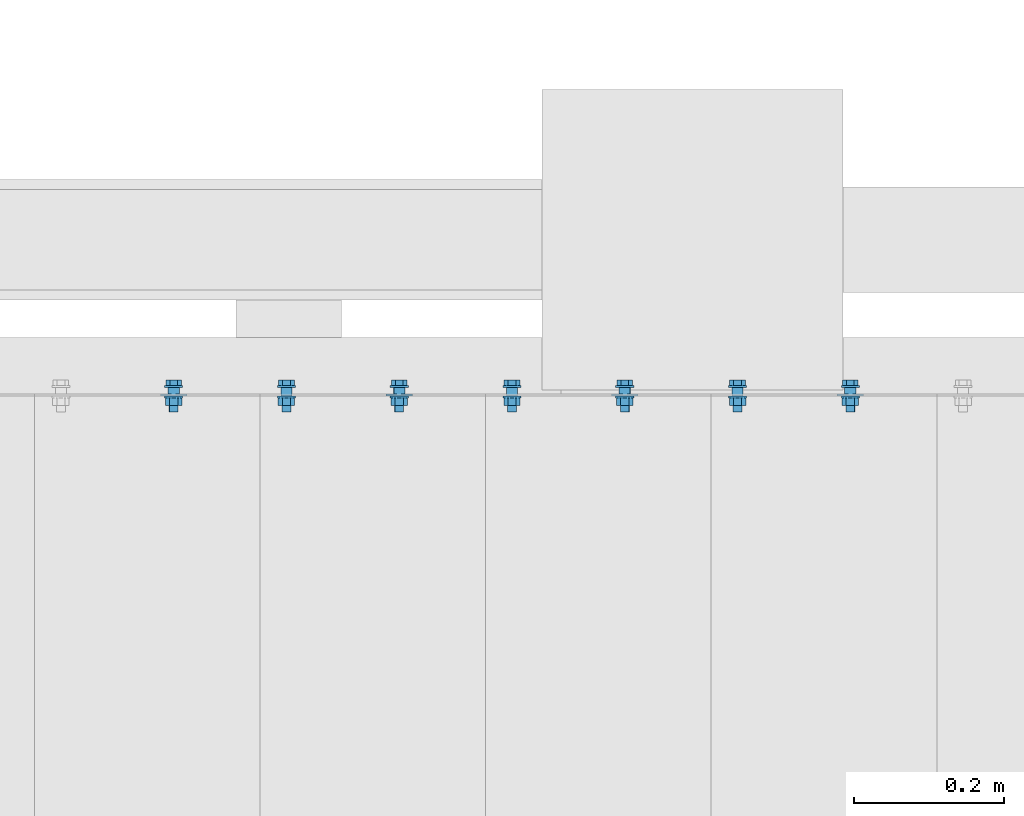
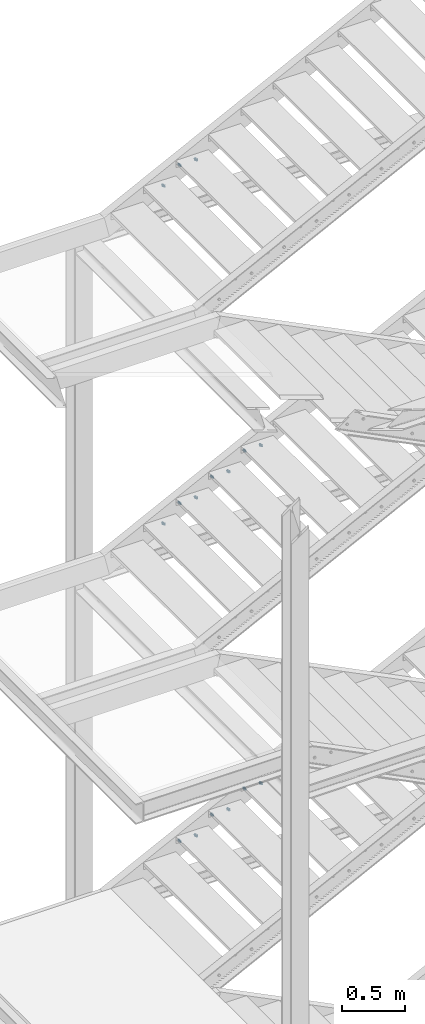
# One storey, part 111 of 132: 16 mechanical fasteners, 9 elements without a shape of their own.
"""IFC2X3 building model written with IfcOpenShell, lengths in millimetres."""

from ifc_helpers import new_model, si_unit, frame, frame_2d, origin_with_axes, origin_2d_with_axis, place, context, subcontext, project, spatial, polyline, circle_curve, parameter, trimmed, segment, composite_curve, circle, outline, extrude, source, transform, mapped, material, type_object, element, aggregate, save


model = new_model("IFC2X3")

# Units and contexts
model_context = context("Model", 3, precision=1e-05, world=origin_with_axes())
body_context = subcontext(model_context, "Body", "Model", "MODEL_VIEW")
ifc_project = project(units=[si_unit("LENGTHUNIT", "METRE", prefix="MILLI"), si_unit("AREAUNIT", "SQUARE_METRE"), si_unit("VOLUMEUNIT", "CUBIC_METRE"), si_unit("MASSUNIT", "GRAM", prefix="KILO"), si_unit("TIMEUNIT", "SECOND"), si_unit("PLANEANGLEUNIT", "RADIAN"), si_unit("SOLIDANGLEUNIT", "STERADIAN"), si_unit("THERMODYNAMICTEMPERATUREUNIT", "DEGREE_CELSIUS"), si_unit("LUMINOUSINTENSITYUNIT", "LUMEN")], contexts=[model_context])

# Site, building, storey
site_placement = place(None, origin_with_axes())
site = spatial("IfcSite", under=ifc_project, at=site_placement, Name="Budowa", CompositionType="ELEMENT")
building_placement = place(site_placement, origin_with_axes())
building = spatial("IfcBuilding", under=site, at=building_placement, Name="Undefined", CompositionType="ELEMENT")
storey_placement = place(building_placement, origin_with_axes())
storey = spatial("IfcBuildingStorey", under=building, at=storey_placement, Name="Undefined", CompositionType="ELEMENT", Elevation=0.0)

# Assembly, mechanical fastener
assembly_1_placement = place(storey_placement, origin_with_axes())
assembly_1 = element("IfcElementAssembly", 1, at=assembly_1_placement, inside=storey, Name="Steel Assembly", AssemblyPlace="NOTDEFINED", PredefinedType="RIGID_FRAME")
ifc_material = material(Name="Undefined")
discrete_accessory_type = type_object("IfcDiscreteAccessoryType", Name="Bolt assembly")
shared_shape_1 = source(origin_with_axes(), body_context, "Body", "SweptSolid", [
    extrude(circle(Radius=7.5, at=origin_2d_with_axis()), frame((0.0, -8.40000000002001, 0.0), z_axis=(0.0, 1.0, 0.0), x_axis=(1.0, 0.0, 0.0)), (0.0, 0.0, 1.0), 8.5),
    extrude(circle(Radius=7.5, at=origin_2d_with_axis()), frame((0.0, -0.1, 0.0), z_axis=(0.0, 1.0, 0.0), x_axis=(1.0, 0.0, 0.0)), (0.0, 0.0, 1.0), 3.1),
    extrude(outline(polyline([(10.39230484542, 0.0), (5.19615242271, 9.00000000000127), (-5.19615242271, 9.00000000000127), (-10.39230484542, 0.0), (-5.19615242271, -9.00000000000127), (5.19615242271, -9.00000000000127), (10.39230484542, 0.0)])), frame((0.0, -18.50000000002, 0.0), z_axis=(0.0, 1.0, 0.0), x_axis=(1.0, 0.0, 0.0)), (0.0, 0.0, 1.0), 7.5),
    extrude(circle(Radius=6.0, at=origin_2d_with_axis()), frame((0.0, -11.00000000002, 0.0), z_axis=(0.0, 1.0, 0.0), x_axis=(1.0, 0.0, 0.0)), (0.0, 0.0, 1.0), 35.0),
    extrude(circle(Radius=12.0, at=origin_2d_with_axis()), frame((0.0, -11.00000000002, 0.0), z_axis=(0.0, 1.0, 0.0), x_axis=(1.0, 0.0, 0.0)), (0.0, 0.0, 1.0), 2.5),
    extrude(circle(Radius=12.0, at=origin_2d_with_axis()), frame((0.0, 3.0, 0.0), z_axis=(0.0, 1.0, 0.0), x_axis=(1.0, 0.0, 0.0)), (0.0, 0.0, 1.0), 2.5),
    extrude(outline(polyline([(10.96965511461, 0.0), (5.484827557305, 9.50000000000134), (-5.484827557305, 9.50000000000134), (-10.96965511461, 0.0), (-5.484827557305, -9.50000000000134), (5.484827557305, -9.50000000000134), (10.96965511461, 0.0)])), frame((0.0, 5.5, 0.0), z_axis=(0.0, 1.0, 0.0), x_axis=(1.0, 0.0, 0.0)), (0.0, 0.0, 1.0), 10.0),
])
mechanical_fastener_1_placement = place(assembly_1_placement, frame((-3520.00000008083, 10925.0000000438, 12649.9999999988), z_axis=(0.0, 0.0, -1.0), x_axis=(1.0, 0.0, 0.0)))
mechanical_fastener_1 = element("IfcMechanicalFastener", 2, at=mechanical_fastener_1_placement, type_object=discrete_accessory_type, material=ifc_material, Name="Bolt assembly", NominalDiameter=12.0, NominalLength=35.0, context=body_context, shape_type="MappedRepresentation", body=[
    mapped(shared_shape_1, transform((35.0, 0.0, 25.0))),
])

assembly_2_placement = place(storey_placement, origin_with_axes())
assembly_2 = element("IfcElementAssembly", 3, at=assembly_2_placement, inside=storey, Name="Steel Assembly", AssemblyPlace="NOTDEFINED", PredefinedType="RIGID_FRAME")
mechanical_fastener_2_placement = place(assembly_2_placement, frame((-2920.00000008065, 10925.0000000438, 9649.99999999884), z_axis=(0.0, 0.0, -1.0), x_axis=(1.0, 0.0, 0.0)))
mechanical_fastener_2 = element("IfcMechanicalFastener", 4, at=mechanical_fastener_2_placement, type_object=discrete_accessory_type, material=ifc_material, Name="Bolt assembly", NominalDiameter=12.0, NominalLength=35.0, context=body_context, shape_type="MappedRepresentation", body=[
    mapped(shared_shape_1, transform((35.0, 0.0, 25.0))),
])

assembly_3_placement = place(storey_placement, origin_with_axes())
assembly_3 = element("IfcElementAssembly", 5, at=assembly_3_placement, inside=storey, Name="Steel Assembly", AssemblyPlace="NOTDEFINED", PredefinedType="RIGID_FRAME")
mechanical_fastener_3_placement = place(assembly_3_placement, frame((-3220.00000008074, 10925.0000000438, 9499.99999999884), z_axis=(0.0, 0.0, -1.0), x_axis=(1.0, 0.0, 0.0)))
mechanical_fastener_3 = element("IfcMechanicalFastener", 6, at=mechanical_fastener_3_placement, type_object=discrete_accessory_type, material=ifc_material, Name="Bolt assembly", NominalDiameter=12.0, NominalLength=35.0, context=body_context, shape_type="MappedRepresentation", body=[
    mapped(shared_shape_1, transform((35.0, 0.0, 25.0))),
])

assembly_4_placement = place(storey_placement, origin_with_axes())
assembly_4 = element("IfcElementAssembly", 7, at=assembly_4_placement, inside=storey, Name="Steel Assembly", AssemblyPlace="NOTDEFINED", PredefinedType="RIGID_FRAME")
mechanical_fastener_4_placement = place(assembly_4_placement, frame((-3520.00000008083, 10925.0000000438, 9349.99999999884), z_axis=(0.0, 0.0, -1.0), x_axis=(1.0, 0.0, 0.0)))
mechanical_fastener_4 = element("IfcMechanicalFastener", 8, at=mechanical_fastener_4_placement, type_object=discrete_accessory_type, material=ifc_material, Name="Bolt assembly", NominalDiameter=12.0, NominalLength=35.0, context=body_context, shape_type="MappedRepresentation", body=[
    mapped(shared_shape_1, transform((35.0, 0.0, 25.0))),
])

assembly_5_placement = place(storey_placement, origin_with_axes())
assembly_5 = element("IfcElementAssembly", 9, at=assembly_5_placement, inside=storey, Name="Steel Assembly", AssemblyPlace="NOTDEFINED", PredefinedType="RIGID_FRAME")
mechanical_fastener_5_placement = place(assembly_5_placement, frame((-2920.00000008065, 10925.0000000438, 6349.99999999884), z_axis=(0.0, 0.0, -1.0), x_axis=(1.0, 0.0, 0.0)))
mechanical_fastener_5 = element("IfcMechanicalFastener", 10, at=mechanical_fastener_5_placement, type_object=discrete_accessory_type, material=ifc_material, Name="Bolt assembly", NominalDiameter=12.0, NominalLength=35.0, context=body_context, shape_type="MappedRepresentation", body=[
    mapped(shared_shape_1, transform((35.0, 0.0, 25.0))),
])

assembly_6_placement = place(storey_placement, origin_with_axes())
assembly_6 = element("IfcElementAssembly", 11, at=assembly_6_placement, inside=storey, Name="Steel Assembly", AssemblyPlace="NOTDEFINED", PredefinedType="RIGID_FRAME")
mechanical_fastener_6_placement = place(assembly_6_placement, frame((-3220.00000008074, 10925.0000000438, 6199.99999999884), z_axis=(0.0, 0.0, -1.0), x_axis=(1.0, 0.0, 0.0)))
mechanical_fastener_6 = element("IfcMechanicalFastener", 12, at=mechanical_fastener_6_placement, type_object=discrete_accessory_type, material=ifc_material, Name="Bolt assembly", NominalDiameter=12.0, NominalLength=35.0, context=body_context, shape_type="MappedRepresentation", body=[
    mapped(shared_shape_1, transform((35.0, 0.0, 25.0))),
])

assembly_7_placement = place(storey_placement, origin_with_axes())
assembly_7 = element("IfcElementAssembly", 13, at=assembly_7_placement, inside=storey, Name="Steel Assembly", AssemblyPlace="NOTDEFINED", PredefinedType="RIGID_FRAME")
mechanical_fastener_7_placement = place(assembly_7_placement, frame((-3520.00000008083, 10925.0000000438, 6049.99999999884), z_axis=(0.0, 0.0, -1.0), x_axis=(1.0, 0.0, 0.0)))
mechanical_fastener_7 = element("IfcMechanicalFastener", 14, at=mechanical_fastener_7_placement, type_object=discrete_accessory_type, material=ifc_material, Name="Bolt assembly", NominalDiameter=12.0, NominalLength=35.0, context=body_context, shape_type="MappedRepresentation", body=[
    mapped(shared_shape_1, transform((35.0, 0.0, 25.0))),
])

# Mechanical fastener
shared_shape_2 = source(origin_with_axes(), body_context, "Body", "SweptSolid", [
    extrude(circle(Radius=7.5, at=origin_2d_with_axis()), frame((0.0, -8.40000000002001, 0.0), z_axis=(0.0, 1.0, 0.0), x_axis=(1.0, 0.0, 0.0)), (0.0, 0.0, 1.0), 8.5),
    extrude(outline(composite_curve([segment(polyline([(-10.0, 7.5), (10.0, 7.5)]), True, "CONTINUOUS"), segment(trimmed(circle_curve(frame_2d((10.0, 0.0), x_axis=(0.0, 1.0)), 7.5), [parameter(0.0)], [parameter(3.14159265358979)], False, "PARAMETER"), True, "CONTINUOUS"), segment(polyline([(10.0, -7.5), (-10.0, -7.5)]), True, "CONTINUOUS"), segment(trimmed(circle_curve(frame_2d((-10.0, 0.0), x_axis=(0.0, -1.0)), 7.5), [parameter(0.0)], [parameter(3.14159265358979)], False, "PARAMETER"), True, "DISCONTINUOUS")], self_intersect=False)), frame((0.0, -0.1, 0.0), z_axis=(0.0, 1.0, 0.0), x_axis=(1.0, 0.0, 0.0)), (0.0, 0.0, 1.0), 3.1),
    extrude(outline(polyline([(10.39230484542, 0.0), (5.19615242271, 9.00000000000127), (-5.19615242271, 9.00000000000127), (-10.39230484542, 0.0), (-5.19615242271, -9.00000000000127), (5.19615242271, -9.00000000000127), (10.39230484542, 0.0)])), frame((0.0, -18.50000000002, 0.0), z_axis=(0.0, 1.0, 0.0), x_axis=(1.0, 0.0, 0.0)), (0.0, 0.0, 1.0), 7.5),
    extrude(circle(Radius=6.0, at=origin_2d_with_axis()), frame((0.0, -11.00000000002, 0.0), z_axis=(0.0, 1.0, 0.0), x_axis=(1.0, 0.0, 0.0)), (0.0, 0.0, 1.0), 35.0),
    extrude(circle(Radius=12.0, at=origin_2d_with_axis()), frame((0.0, -11.00000000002, 0.0), z_axis=(0.0, 1.0, 0.0), x_axis=(1.0, 0.0, 0.0)), (0.0, 0.0, 1.0), 2.5),
    extrude(circle(Radius=12.0, at=origin_2d_with_axis()), frame((0.0, 3.0, 0.0), z_axis=(0.0, 1.0, 0.0), x_axis=(1.0, 0.0, 0.0)), (0.0, 0.0, 1.0), 2.5),
    extrude(outline(polyline([(10.96965511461, 0.0), (5.484827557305, 9.50000000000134), (-5.484827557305, 9.50000000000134), (-10.96965511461, 0.0), (-5.484827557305, -9.50000000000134), (5.484827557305, -9.50000000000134), (10.96965511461, 0.0)])), frame((0.0, 5.5, 0.0), z_axis=(0.0, 1.0, 0.0), x_axis=(1.0, 0.0, 0.0)), (0.0, 0.0, 1.0), 10.0),
])
mechanical_fastener_8_placement = place(assembly_1_placement, frame((-3520.00000008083, 10925.0000000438, 12649.9999999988), z_axis=(0.0, 0.0, -1.0), x_axis=(1.0, 0.0, 0.0)))
mechanical_fastener_8 = element("IfcMechanicalFastener", 15, at=mechanical_fastener_8_placement, type_object=discrete_accessory_type, material=ifc_material, Name="Bolt assembly", NominalDiameter=12.0, NominalLength=35.0, context=body_context, shape_type="MappedRepresentation", body=[
    mapped(shared_shape_2, transform((185.0, 0.0, 25.0))),
])

aggregate(assembly_1, [mechanical_fastener_8, mechanical_fastener_1])

# Assembly, mechanical fastener
assembly_8_placement = place(storey_placement, origin_with_axes())
assembly_8 = element("IfcElementAssembly", 16, at=assembly_8_placement, inside=storey, Name="Steel Assembly", AssemblyPlace="NOTDEFINED", PredefinedType="RIGID_FRAME")
shared_shape_3 = source(origin_with_axes(), body_context, "Body", "SweptSolid", [
    extrude(circle(Radius=7.5, at=origin_2d_with_axis()), frame((0.0, -8.40000000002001, 0.0), z_axis=(0.0, 1.0, 0.0), x_axis=(1.0, 0.0, 0.0)), (0.0, 0.0, 1.0), 8.5),
    extrude(outline(composite_curve([segment(polyline([(-10.0, 7.5), (10.0, 7.5)]), True, "CONTINUOUS"), segment(trimmed(circle_curve(frame_2d((10.0, 0.0), x_axis=(0.0, 1.0)), 7.5), [parameter(0.0)], [parameter(3.14159265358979)], False, "PARAMETER"), True, "CONTINUOUS"), segment(polyline([(10.0, -7.5), (-10.0, -7.5)]), True, "CONTINUOUS"), segment(trimmed(circle_curve(frame_2d((-10.0, 0.0), x_axis=(0.0, -1.0)), 7.5), [parameter(0.0)], [parameter(3.14159265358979)], False, "PARAMETER"), True, "DISCONTINUOUS")], self_intersect=False)), frame((0.0, -0.1, 0.0), z_axis=(0.0, 1.0, 0.0), x_axis=(1.0, 0.0, 0.0)), (0.0, 0.0, 1.0), 3.1),
    extrude(outline(polyline([(10.39230484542, 0.0), (5.19615242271, 9.00000000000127), (-5.19615242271, 9.00000000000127), (-10.39230484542, 0.0), (-5.19615242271, -9.00000000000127), (5.19615242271, -9.00000000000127), (10.39230484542, 0.0)])), frame((0.0, -18.50000000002, 0.0), z_axis=(0.0, 1.0, 0.0), x_axis=(1.0, 0.0, 0.0)), (0.0, 0.0, 1.0), 7.5),
    extrude(circle(Radius=6.0, at=origin_2d_with_axis()), frame((0.0, -11.00000000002, 0.0), z_axis=(0.0, 1.0, 0.0), x_axis=(1.0, 0.0, 0.0)), (0.0, 0.0, 1.0), 35.0),
    extrude(circle(Radius=12.0, at=origin_2d_with_axis()), frame((0.0, -11.00000000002, 0.0), z_axis=(0.0, 1.0, 0.0), x_axis=(1.0, 0.0, 0.0)), (0.0, 0.0, 1.0), 2.5),
    extrude(circle(Radius=12.0, at=origin_2d_with_axis()), frame((0.0, 3.0, 0.0), z_axis=(0.0, 1.0, 0.0), x_axis=(1.0, 0.0, 0.0)), (0.0, 0.0, 1.0), 2.5),
    extrude(outline(polyline([(10.96965511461, 0.0), (5.484827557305, 9.50000000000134), (-5.484827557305, 9.50000000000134), (-10.96965511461, 0.0), (-5.484827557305, -9.50000000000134), (5.484827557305, -9.50000000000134), (10.96965511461, 0.0)])), frame((0.0, 5.5, 0.0), z_axis=(0.0, 1.0, 0.0), x_axis=(1.0, 0.0, 0.0)), (0.0, 0.0, 1.0), 10.0),
])
mechanical_fastener_9_placement = place(assembly_8_placement, frame((-3820.00000008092, 10925.0000000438, 12499.9999999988), z_axis=(0.0, 0.0, -1.0), x_axis=(1.0, 0.0, 0.0)))
mechanical_fastener_9 = element("IfcMechanicalFastener", 17, at=mechanical_fastener_9_placement, type_object=discrete_accessory_type, material=ifc_material, Name="Bolt assembly", NominalDiameter=12.0, NominalLength=35.0, context=body_context, shape_type="MappedRepresentation", body=[
    mapped(shared_shape_3, transform((185.0, 0.0, 25.0))),
])
aggregate(assembly_8, [mechanical_fastener_9])

# Mechanical fastener
shared_shape_4 = source(origin_with_axes(), body_context, "Body", "SweptSolid", [
    extrude(circle(Radius=7.5, at=origin_2d_with_axis()), frame((0.0, -8.40000000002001, 0.0), z_axis=(0.0, 1.0, 0.0), x_axis=(1.0, 0.0, 0.0)), (0.0, 0.0, 1.0), 8.5),
    extrude(outline(composite_curve([segment(polyline([(-10.0, 7.5), (10.0, 7.5)]), True, "CONTINUOUS"), segment(trimmed(circle_curve(frame_2d((10.0, 0.0), x_axis=(0.0, 1.0)), 7.5), [parameter(0.0)], [parameter(3.14159265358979)], False, "PARAMETER"), True, "CONTINUOUS"), segment(polyline([(10.0, -7.5), (-10.0, -7.5)]), True, "CONTINUOUS"), segment(trimmed(circle_curve(frame_2d((-10.0, 0.0), x_axis=(0.0, -1.0)), 7.5), [parameter(0.0)], [parameter(3.14159265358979)], False, "PARAMETER"), True, "DISCONTINUOUS")], self_intersect=False)), frame((0.0, -0.1, 0.0), z_axis=(0.0, 1.0, 0.0), x_axis=(1.0, 0.0, 0.0)), (0.0, 0.0, 1.0), 3.1),
    extrude(outline(polyline([(10.39230484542, 0.0), (5.19615242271, 9.00000000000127), (-5.19615242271, 9.00000000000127), (-10.39230484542, 0.0), (-5.19615242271, -9.00000000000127), (5.19615242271, -9.00000000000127), (10.39230484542, 0.0)])), frame((0.0, -18.50000000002, 0.0), z_axis=(0.0, 1.0, 0.0), x_axis=(1.0, 0.0, 0.0)), (0.0, 0.0, 1.0), 7.5),
    extrude(circle(Radius=6.0, at=origin_2d_with_axis()), frame((0.0, -11.00000000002, 0.0), z_axis=(0.0, 1.0, 0.0), x_axis=(1.0, 0.0, 0.0)), (0.0, 0.0, 1.0), 35.0),
    extrude(circle(Radius=12.0, at=origin_2d_with_axis()), frame((0.0, -11.00000000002, 0.0), z_axis=(0.0, 1.0, 0.0), x_axis=(1.0, 0.0, 0.0)), (0.0, 0.0, 1.0), 2.5),
    extrude(circle(Radius=12.0, at=origin_2d_with_axis()), frame((0.0, 3.0, 0.0), z_axis=(0.0, 1.0, 0.0), x_axis=(1.0, 0.0, 0.0)), (0.0, 0.0, 1.0), 2.5),
    extrude(outline(polyline([(10.96965511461, 0.0), (5.484827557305, 9.50000000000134), (-5.484827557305, 9.50000000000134), (-10.96965511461, 0.0), (-5.484827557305, -9.50000000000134), (5.484827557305, -9.50000000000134), (10.96965511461, 0.0)])), frame((0.0, 5.5, 0.0), z_axis=(0.0, 1.0, 0.0), x_axis=(1.0, 0.0, 0.0)), (0.0, 0.0, 1.0), 10.0),
])
mechanical_fastener_10_placement = place(assembly_2_placement, frame((-2920.00000008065, 10925.0000000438, 9649.99999999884), z_axis=(0.0, 0.0, -1.0), x_axis=(1.0, 0.0, 0.0)))
mechanical_fastener_10 = element("IfcMechanicalFastener", 18, at=mechanical_fastener_10_placement, type_object=discrete_accessory_type, material=ifc_material, Name="Bolt assembly", NominalDiameter=12.0, NominalLength=35.0, context=body_context, shape_type="MappedRepresentation", body=[
    mapped(shared_shape_4, transform((185.0, 0.0, 25.0))),
])

aggregate(assembly_2, [mechanical_fastener_10, mechanical_fastener_2])

shared_shape_5 = source(origin_with_axes(), body_context, "Body", "SweptSolid", [
    extrude(circle(Radius=7.5, at=origin_2d_with_axis()), frame((0.0, -8.40000000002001, 0.0), z_axis=(0.0, 1.0, 0.0), x_axis=(1.0, 0.0, 0.0)), (0.0, 0.0, 1.0), 8.5),
    extrude(outline(composite_curve([segment(polyline([(-10.0, 7.5), (10.0, 7.5)]), True, "CONTINUOUS"), segment(trimmed(circle_curve(frame_2d((10.0, 0.0), x_axis=(0.0, 1.0)), 7.5), [parameter(0.0)], [parameter(3.14159265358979)], False, "PARAMETER"), True, "CONTINUOUS"), segment(polyline([(10.0, -7.5), (-10.0, -7.5)]), True, "CONTINUOUS"), segment(trimmed(circle_curve(frame_2d((-10.0, 0.0), x_axis=(0.0, -1.0)), 7.5), [parameter(0.0)], [parameter(3.14159265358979)], False, "PARAMETER"), True, "DISCONTINUOUS")], self_intersect=False)), frame((0.0, -0.1, 0.0), z_axis=(0.0, 1.0, 0.0), x_axis=(1.0, 0.0, 0.0)), (0.0, 0.0, 1.0), 3.1),
    extrude(outline(polyline([(10.39230484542, 0.0), (5.19615242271, 9.00000000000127), (-5.19615242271, 9.00000000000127), (-10.39230484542, 0.0), (-5.19615242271, -9.00000000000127), (5.19615242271, -9.00000000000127), (10.39230484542, 0.0)])), frame((0.0, -18.50000000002, 0.0), z_axis=(0.0, 1.0, 0.0), x_axis=(1.0, 0.0, 0.0)), (0.0, 0.0, 1.0), 7.5),
    extrude(circle(Radius=6.0, at=origin_2d_with_axis()), frame((0.0, -11.00000000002, 0.0), z_axis=(0.0, 1.0, 0.0), x_axis=(1.0, 0.0, 0.0)), (0.0, 0.0, 1.0), 35.0),
    extrude(circle(Radius=12.0, at=origin_2d_with_axis()), frame((0.0, -11.00000000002, 0.0), z_axis=(0.0, 1.0, 0.0), x_axis=(1.0, 0.0, 0.0)), (0.0, 0.0, 1.0), 2.5),
    extrude(circle(Radius=12.0, at=origin_2d_with_axis()), frame((0.0, 3.0, 0.0), z_axis=(0.0, 1.0, 0.0), x_axis=(1.0, 0.0, 0.0)), (0.0, 0.0, 1.0), 2.5),
    extrude(outline(polyline([(10.96965511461, 0.0), (5.484827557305, 9.50000000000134), (-5.484827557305, 9.50000000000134), (-10.96965511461, 0.0), (-5.484827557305, -9.50000000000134), (5.484827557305, -9.50000000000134), (10.96965511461, 0.0)])), frame((0.0, 5.5, 0.0), z_axis=(0.0, 1.0, 0.0), x_axis=(1.0, 0.0, 0.0)), (0.0, 0.0, 1.0), 10.0),
])
mechanical_fastener_11_placement = place(assembly_3_placement, frame((-3220.00000008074, 10925.0000000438, 9499.99999999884), z_axis=(0.0, 0.0, -1.0), x_axis=(1.0, 0.0, 0.0)))
mechanical_fastener_11 = element("IfcMechanicalFastener", 19, at=mechanical_fastener_11_placement, type_object=discrete_accessory_type, material=ifc_material, Name="Bolt assembly", NominalDiameter=12.0, NominalLength=35.0, context=body_context, shape_type="MappedRepresentation", body=[
    mapped(shared_shape_5, transform((185.0, 0.0, 25.0))),
])

aggregate(assembly_3, [mechanical_fastener_11, mechanical_fastener_3])

shared_shape_6 = source(origin_with_axes(), body_context, "Body", "SweptSolid", [
    extrude(circle(Radius=7.5, at=origin_2d_with_axis()), frame((0.0, -8.40000000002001, 0.0), z_axis=(0.0, 1.0, 0.0), x_axis=(1.0, 0.0, 0.0)), (0.0, 0.0, 1.0), 8.5),
    extrude(outline(composite_curve([segment(polyline([(-10.0, 7.5), (10.0, 7.5)]), True, "CONTINUOUS"), segment(trimmed(circle_curve(frame_2d((10.0, 0.0), x_axis=(0.0, 1.0)), 7.5), [parameter(0.0)], [parameter(3.14159265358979)], False, "PARAMETER"), True, "CONTINUOUS"), segment(polyline([(10.0, -7.5), (-10.0, -7.5)]), True, "CONTINUOUS"), segment(trimmed(circle_curve(frame_2d((-10.0, 0.0), x_axis=(0.0, -1.0)), 7.5), [parameter(0.0)], [parameter(3.14159265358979)], False, "PARAMETER"), True, "DISCONTINUOUS")], self_intersect=False)), frame((0.0, -0.1, 0.0), z_axis=(0.0, 1.0, 0.0), x_axis=(1.0, 0.0, 0.0)), (0.0, 0.0, 1.0), 3.1),
    extrude(outline(polyline([(10.39230484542, 0.0), (5.19615242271, 9.00000000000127), (-5.19615242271, 9.00000000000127), (-10.39230484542, 0.0), (-5.19615242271, -9.00000000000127), (5.19615242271, -9.00000000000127), (10.39230484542, 0.0)])), frame((0.0, -18.50000000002, 0.0), z_axis=(0.0, 1.0, 0.0), x_axis=(1.0, 0.0, 0.0)), (0.0, 0.0, 1.0), 7.5),
    extrude(circle(Radius=6.0, at=origin_2d_with_axis()), frame((0.0, -11.00000000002, 0.0), z_axis=(0.0, 1.0, 0.0), x_axis=(1.0, 0.0, 0.0)), (0.0, 0.0, 1.0), 35.0),
    extrude(circle(Radius=12.0, at=origin_2d_with_axis()), frame((0.0, -11.00000000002, 0.0), z_axis=(0.0, 1.0, 0.0), x_axis=(1.0, 0.0, 0.0)), (0.0, 0.0, 1.0), 2.5),
    extrude(circle(Radius=12.0, at=origin_2d_with_axis()), frame((0.0, 3.0, 0.0), z_axis=(0.0, 1.0, 0.0), x_axis=(1.0, 0.0, 0.0)), (0.0, 0.0, 1.0), 2.5),
    extrude(outline(polyline([(10.96965511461, 0.0), (5.484827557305, 9.50000000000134), (-5.484827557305, 9.50000000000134), (-10.96965511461, 0.0), (-5.484827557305, -9.50000000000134), (5.484827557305, -9.50000000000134), (10.96965511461, 0.0)])), frame((0.0, 5.5, 0.0), z_axis=(0.0, 1.0, 0.0), x_axis=(1.0, 0.0, 0.0)), (0.0, 0.0, 1.0), 10.0),
])
mechanical_fastener_12_placement = place(assembly_4_placement, frame((-3520.00000008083, 10925.0000000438, 9349.99999999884), z_axis=(0.0, 0.0, -1.0), x_axis=(1.0, 0.0, 0.0)))
mechanical_fastener_12 = element("IfcMechanicalFastener", 20, at=mechanical_fastener_12_placement, type_object=discrete_accessory_type, material=ifc_material, Name="Bolt assembly", NominalDiameter=12.0, NominalLength=35.0, context=body_context, shape_type="MappedRepresentation", body=[
    mapped(shared_shape_6, transform((185.0, 0.0, 25.0))),
])

aggregate(assembly_4, [mechanical_fastener_12, mechanical_fastener_4])

# Assembly, mechanical fastener
assembly_9_placement = place(storey_placement, origin_with_axes())
assembly_9 = element("IfcElementAssembly", 21, at=assembly_9_placement, inside=storey, Name="Steel Assembly", AssemblyPlace="NOTDEFINED", PredefinedType="RIGID_FRAME")
shared_shape_7 = source(origin_with_axes(), body_context, "Body", "SweptSolid", [
    extrude(circle(Radius=7.5, at=origin_2d_with_axis()), frame((0.0, -8.40000000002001, 0.0), z_axis=(0.0, 1.0, 0.0), x_axis=(1.0, 0.0, 0.0)), (0.0, 0.0, 1.0), 8.5),
    extrude(outline(composite_curve([segment(polyline([(-10.0, 7.5), (10.0, 7.5)]), True, "CONTINUOUS"), segment(trimmed(circle_curve(frame_2d((10.0, 0.0), x_axis=(0.0, 1.0)), 7.5), [parameter(0.0)], [parameter(3.14159265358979)], False, "PARAMETER"), True, "CONTINUOUS"), segment(polyline([(10.0, -7.5), (-10.0, -7.5)]), True, "CONTINUOUS"), segment(trimmed(circle_curve(frame_2d((-10.0, 0.0), x_axis=(0.0, -1.0)), 7.5), [parameter(0.0)], [parameter(3.14159265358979)], False, "PARAMETER"), True, "DISCONTINUOUS")], self_intersect=False)), frame((0.0, -0.1, 0.0), z_axis=(0.0, 1.0, 0.0), x_axis=(1.0, 0.0, 0.0)), (0.0, 0.0, 1.0), 3.1),
    extrude(outline(polyline([(10.39230484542, 0.0), (5.19615242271, 9.00000000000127), (-5.19615242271, 9.00000000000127), (-10.39230484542, 0.0), (-5.19615242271, -9.00000000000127), (5.19615242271, -9.00000000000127), (10.39230484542, 0.0)])), frame((0.0, -18.50000000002, 0.0), z_axis=(0.0, 1.0, 0.0), x_axis=(1.0, 0.0, 0.0)), (0.0, 0.0, 1.0), 7.5),
    extrude(circle(Radius=6.0, at=origin_2d_with_axis()), frame((0.0, -11.00000000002, 0.0), z_axis=(0.0, 1.0, 0.0), x_axis=(1.0, 0.0, 0.0)), (0.0, 0.0, 1.0), 35.0),
    extrude(circle(Radius=12.0, at=origin_2d_with_axis()), frame((0.0, -11.00000000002, 0.0), z_axis=(0.0, 1.0, 0.0), x_axis=(1.0, 0.0, 0.0)), (0.0, 0.0, 1.0), 2.5),
    extrude(circle(Radius=12.0, at=origin_2d_with_axis()), frame((0.0, 3.0, 0.0), z_axis=(0.0, 1.0, 0.0), x_axis=(1.0, 0.0, 0.0)), (0.0, 0.0, 1.0), 2.5),
    extrude(outline(polyline([(10.96965511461, 0.0), (5.484827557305, 9.50000000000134), (-5.484827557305, 9.50000000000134), (-10.96965511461, 0.0), (-5.484827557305, -9.50000000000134), (5.484827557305, -9.50000000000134), (10.96965511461, 0.0)])), frame((0.0, 5.5, 0.0), z_axis=(0.0, 1.0, 0.0), x_axis=(1.0, 0.0, 0.0)), (0.0, 0.0, 1.0), 10.0),
])
mechanical_fastener_13_placement = place(assembly_9_placement, frame((-3820.00000008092, 10925.0000000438, 9199.99999999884), z_axis=(0.0, 0.0, -1.0), x_axis=(1.0, 0.0, 0.0)))
mechanical_fastener_13 = element("IfcMechanicalFastener", 22, at=mechanical_fastener_13_placement, type_object=discrete_accessory_type, material=ifc_material, Name="Bolt assembly", NominalDiameter=12.0, NominalLength=35.0, context=body_context, shape_type="MappedRepresentation", body=[
    mapped(shared_shape_7, transform((185.0, 0.0, 25.0))),
])
aggregate(assembly_9, [mechanical_fastener_13])

# Mechanical fastener
shared_shape_8 = source(origin_with_axes(), body_context, "Body", "SweptSolid", [
    extrude(circle(Radius=7.5, at=origin_2d_with_axis()), frame((0.0, -8.40000000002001, 0.0), z_axis=(0.0, 1.0, 0.0), x_axis=(1.0, 0.0, 0.0)), (0.0, 0.0, 1.0), 8.5),
    extrude(outline(composite_curve([segment(polyline([(-10.0, 7.5), (10.0, 7.5)]), True, "CONTINUOUS"), segment(trimmed(circle_curve(frame_2d((10.0, 0.0), x_axis=(0.0, 1.0)), 7.5), [parameter(0.0)], [parameter(3.14159265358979)], False, "PARAMETER"), True, "CONTINUOUS"), segment(polyline([(10.0, -7.5), (-10.0, -7.5)]), True, "CONTINUOUS"), segment(trimmed(circle_curve(frame_2d((-10.0, 0.0), x_axis=(0.0, -1.0)), 7.5), [parameter(0.0)], [parameter(3.14159265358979)], False, "PARAMETER"), True, "DISCONTINUOUS")], self_intersect=False)), frame((0.0, -0.1, 0.0), z_axis=(0.0, 1.0, 0.0), x_axis=(1.0, 0.0, 0.0)), (0.0, 0.0, 1.0), 3.1),
    extrude(outline(polyline([(10.39230484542, 0.0), (5.19615242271, 9.00000000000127), (-5.19615242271, 9.00000000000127), (-10.39230484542, 0.0), (-5.19615242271, -9.00000000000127), (5.19615242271, -9.00000000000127), (10.39230484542, 0.0)])), frame((0.0, -18.50000000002, 0.0), z_axis=(0.0, 1.0, 0.0), x_axis=(1.0, 0.0, 0.0)), (0.0, 0.0, 1.0), 7.5),
    extrude(circle(Radius=6.0, at=origin_2d_with_axis()), frame((0.0, -11.00000000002, 0.0), z_axis=(0.0, 1.0, 0.0), x_axis=(1.0, 0.0, 0.0)), (0.0, 0.0, 1.0), 35.0),
    extrude(circle(Radius=12.0, at=origin_2d_with_axis()), frame((0.0, -11.00000000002, 0.0), z_axis=(0.0, 1.0, 0.0), x_axis=(1.0, 0.0, 0.0)), (0.0, 0.0, 1.0), 2.5),
    extrude(circle(Radius=12.0, at=origin_2d_with_axis()), frame((0.0, 3.0, 0.0), z_axis=(0.0, 1.0, 0.0), x_axis=(1.0, 0.0, 0.0)), (0.0, 0.0, 1.0), 2.5),
    extrude(outline(polyline([(10.96965511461, 0.0), (5.484827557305, 9.50000000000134), (-5.484827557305, 9.50000000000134), (-10.96965511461, 0.0), (-5.484827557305, -9.50000000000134), (5.484827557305, -9.50000000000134), (10.96965511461, 0.0)])), frame((0.0, 5.5, 0.0), z_axis=(0.0, 1.0, 0.0), x_axis=(1.0, 0.0, 0.0)), (0.0, 0.0, 1.0), 10.0),
])
mechanical_fastener_14_placement = place(assembly_5_placement, frame((-2920.00000008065, 10925.0000000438, 6349.99999999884), z_axis=(0.0, 0.0, -1.0), x_axis=(1.0, 0.0, 0.0)))
mechanical_fastener_14 = element("IfcMechanicalFastener", 23, at=mechanical_fastener_14_placement, type_object=discrete_accessory_type, material=ifc_material, Name="Bolt assembly", NominalDiameter=12.0, NominalLength=35.0, context=body_context, shape_type="MappedRepresentation", body=[
    mapped(shared_shape_8, transform((185.0, 0.0, 25.0))),
])

aggregate(assembly_5, [mechanical_fastener_14, mechanical_fastener_5])

shared_shape_9 = source(origin_with_axes(), body_context, "Body", "SweptSolid", [
    extrude(circle(Radius=7.5, at=origin_2d_with_axis()), frame((0.0, -8.40000000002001, 0.0), z_axis=(0.0, 1.0, 0.0), x_axis=(1.0, 0.0, 0.0)), (0.0, 0.0, 1.0), 8.5),
    extrude(outline(composite_curve([segment(polyline([(-10.0, 7.5), (10.0, 7.5)]), True, "CONTINUOUS"), segment(trimmed(circle_curve(frame_2d((10.0, 0.0), x_axis=(0.0, 1.0)), 7.5), [parameter(0.0)], [parameter(3.14159265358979)], False, "PARAMETER"), True, "CONTINUOUS"), segment(polyline([(10.0, -7.5), (-10.0, -7.5)]), True, "CONTINUOUS"), segment(trimmed(circle_curve(frame_2d((-10.0, 0.0), x_axis=(0.0, -1.0)), 7.5), [parameter(0.0)], [parameter(3.14159265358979)], False, "PARAMETER"), True, "DISCONTINUOUS")], self_intersect=False)), frame((0.0, -0.1, 0.0), z_axis=(0.0, 1.0, 0.0), x_axis=(1.0, 0.0, 0.0)), (0.0, 0.0, 1.0), 3.1),
    extrude(outline(polyline([(10.39230484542, 0.0), (5.19615242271, 9.00000000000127), (-5.19615242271, 9.00000000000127), (-10.39230484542, 0.0), (-5.19615242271, -9.00000000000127), (5.19615242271, -9.00000000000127), (10.39230484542, 0.0)])), frame((0.0, -18.50000000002, 0.0), z_axis=(0.0, 1.0, 0.0), x_axis=(1.0, 0.0, 0.0)), (0.0, 0.0, 1.0), 7.5),
    extrude(circle(Radius=6.0, at=origin_2d_with_axis()), frame((0.0, -11.00000000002, 0.0), z_axis=(0.0, 1.0, 0.0), x_axis=(1.0, 0.0, 0.0)), (0.0, 0.0, 1.0), 35.0),
    extrude(circle(Radius=12.0, at=origin_2d_with_axis()), frame((0.0, -11.00000000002, 0.0), z_axis=(0.0, 1.0, 0.0), x_axis=(1.0, 0.0, 0.0)), (0.0, 0.0, 1.0), 2.5),
    extrude(circle(Radius=12.0, at=origin_2d_with_axis()), frame((0.0, 3.0, 0.0), z_axis=(0.0, 1.0, 0.0), x_axis=(1.0, 0.0, 0.0)), (0.0, 0.0, 1.0), 2.5),
    extrude(outline(polyline([(10.96965511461, 0.0), (5.484827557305, 9.50000000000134), (-5.484827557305, 9.50000000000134), (-10.96965511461, 0.0), (-5.484827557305, -9.50000000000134), (5.484827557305, -9.50000000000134), (10.96965511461, 0.0)])), frame((0.0, 5.5, 0.0), z_axis=(0.0, 1.0, 0.0), x_axis=(1.0, 0.0, 0.0)), (0.0, 0.0, 1.0), 10.0),
])
mechanical_fastener_15_placement = place(assembly_6_placement, frame((-3220.00000008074, 10925.0000000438, 6199.99999999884), z_axis=(0.0, 0.0, -1.0), x_axis=(1.0, 0.0, 0.0)))
mechanical_fastener_15 = element("IfcMechanicalFastener", 24, at=mechanical_fastener_15_placement, type_object=discrete_accessory_type, material=ifc_material, Name="Bolt assembly", NominalDiameter=12.0, NominalLength=35.0, context=body_context, shape_type="MappedRepresentation", body=[
    mapped(shared_shape_9, transform((185.0, 0.0, 25.0))),
])

aggregate(assembly_6, [mechanical_fastener_15, mechanical_fastener_6])

shared_shape_10 = source(origin_with_axes(), body_context, "Body", "SweptSolid", [
    extrude(circle(Radius=7.5, at=origin_2d_with_axis()), frame((0.0, -8.40000000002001, 0.0), z_axis=(0.0, 1.0, 0.0), x_axis=(1.0, 0.0, 0.0)), (0.0, 0.0, 1.0), 8.5),
    extrude(outline(composite_curve([segment(polyline([(-10.0, 7.5), (10.0, 7.5)]), True, "CONTINUOUS"), segment(trimmed(circle_curve(frame_2d((10.0, 0.0), x_axis=(0.0, 1.0)), 7.5), [parameter(0.0)], [parameter(3.14159265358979)], False, "PARAMETER"), True, "CONTINUOUS"), segment(polyline([(10.0, -7.5), (-10.0, -7.5)]), True, "CONTINUOUS"), segment(trimmed(circle_curve(frame_2d((-10.0, 0.0), x_axis=(0.0, -1.0)), 7.5), [parameter(0.0)], [parameter(3.14159265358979)], False, "PARAMETER"), True, "DISCONTINUOUS")], self_intersect=False)), frame((0.0, -0.1, 0.0), z_axis=(0.0, 1.0, 0.0), x_axis=(1.0, 0.0, 0.0)), (0.0, 0.0, 1.0), 3.1),
    extrude(outline(polyline([(10.39230484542, 0.0), (5.19615242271, 9.00000000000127), (-5.19615242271, 9.00000000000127), (-10.39230484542, 0.0), (-5.19615242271, -9.00000000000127), (5.19615242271, -9.00000000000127), (10.39230484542, 0.0)])), frame((0.0, -18.50000000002, 0.0), z_axis=(0.0, 1.0, 0.0), x_axis=(1.0, 0.0, 0.0)), (0.0, 0.0, 1.0), 7.5),
    extrude(circle(Radius=6.0, at=origin_2d_with_axis()), frame((0.0, -11.00000000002, 0.0), z_axis=(0.0, 1.0, 0.0), x_axis=(1.0, 0.0, 0.0)), (0.0, 0.0, 1.0), 35.0),
    extrude(circle(Radius=12.0, at=origin_2d_with_axis()), frame((0.0, -11.00000000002, 0.0), z_axis=(0.0, 1.0, 0.0), x_axis=(1.0, 0.0, 0.0)), (0.0, 0.0, 1.0), 2.5),
    extrude(circle(Radius=12.0, at=origin_2d_with_axis()), frame((0.0, 3.0, 0.0), z_axis=(0.0, 1.0, 0.0), x_axis=(1.0, 0.0, 0.0)), (0.0, 0.0, 1.0), 2.5),
    extrude(outline(polyline([(10.96965511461, 0.0), (5.484827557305, 9.50000000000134), (-5.484827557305, 9.50000000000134), (-10.96965511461, 0.0), (-5.484827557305, -9.50000000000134), (5.484827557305, -9.50000000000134), (10.96965511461, 0.0)])), frame((0.0, 5.5, 0.0), z_axis=(0.0, 1.0, 0.0), x_axis=(1.0, 0.0, 0.0)), (0.0, 0.0, 1.0), 10.0),
])
mechanical_fastener_16_placement = place(assembly_7_placement, frame((-3520.00000008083, 10925.0000000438, 6049.99999999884), z_axis=(0.0, 0.0, -1.0), x_axis=(1.0, 0.0, 0.0)))
mechanical_fastener_16 = element("IfcMechanicalFastener", 25, at=mechanical_fastener_16_placement, type_object=discrete_accessory_type, material=ifc_material, Name="Bolt assembly", NominalDiameter=12.0, NominalLength=35.0, context=body_context, shape_type="MappedRepresentation", body=[
    mapped(shared_shape_10, transform((185.0, 0.0, 25.0))),
])

aggregate(assembly_7, [mechanical_fastener_16, mechanical_fastener_7])

save(model, "model.ifc")
